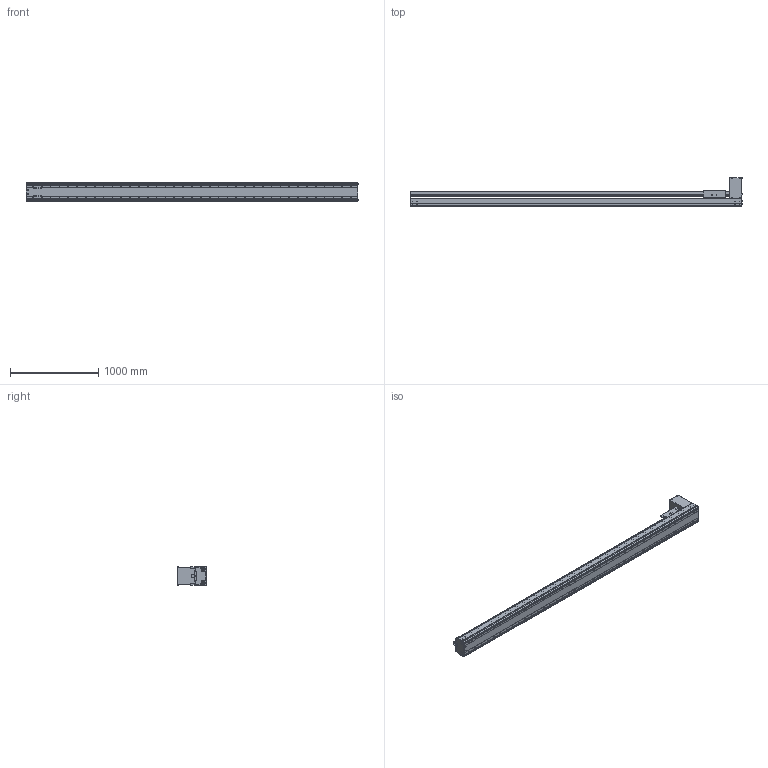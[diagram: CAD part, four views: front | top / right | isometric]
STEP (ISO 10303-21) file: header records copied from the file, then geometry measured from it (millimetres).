
FILE_DESCRIPTION((''),'2;1');
FILE_NAME('BE60J-BT-M19N-W25_IGS_PRT','2017-06-18T',(' '),(''),'PRO/ENGINEER BY PARAMETRIC TECHNOLOGY CORPORATION, 2015030','PRO/ENGINEER BY PARAMETRIC TECHNOLOGY CORPORATION, 2015030','');
FILE_SCHEMA(('CONFIG_CONTROL_DESIGN'));
Products named in the file (1): BE60J-BT-M19N-W25_IGS_PRT
Bounding box: 3754.4 x 327.5 x 214 mm (x, y, z)
Volume: 29618749.7 mm3; surface area: 8709672.8 mm2
Topology: 2 solids, 427 shells, 2911 faces, 8404 edges, 5666 vertices
Faces by surface type: cylinder 1512, plane 969, cone 334, torus 48, sphere 48
Entity records: 98991 total; most frequent: CARTESIAN_POINT 23503, DIRECTION 15621, ORIENTED_EDGE 14836, EDGE_CURVE 8130, AXIS2_PLACEMENT_3D 6030, VERTEX_POINT 5626, EDGE_LOOP 3620, VECTOR 3561
